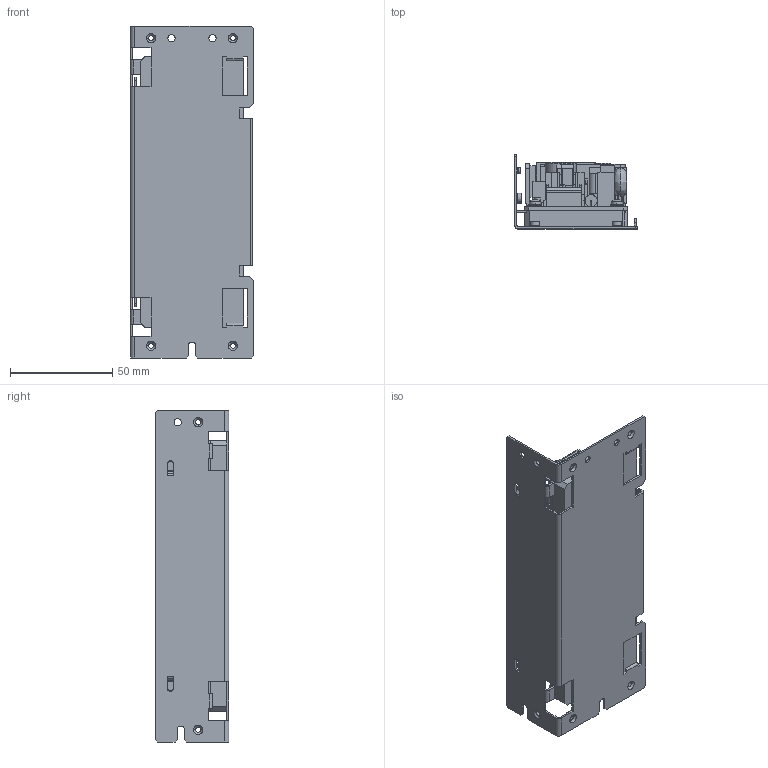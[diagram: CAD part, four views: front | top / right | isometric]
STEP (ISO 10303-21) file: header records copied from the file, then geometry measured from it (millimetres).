
FILE_DESCRIPTION (( 'STEP AP214' ), '1' );
FILE_NAME ('zws50baf_l_outline.STEP', '2015-07-23T02:27:21', ( 'tluser' ), ( '' ), 'SwSTEP 2.0', 'SolidWorks 2013', '' );
FILE_SCHEMA (( 'AUTOMOTIVE_DESIGN' ));
Length unit declared in the file: millimetre
Products named in the file (1): zws50baf_l_outline
Bounding box: 60 x 36 x 162 mm (x, y, z)
Volume: 122682.6 mm3; surface area: 66994.4 mm2
Topology: 1 solids, 2 shells, 1872 faces, 5159 edges, 3293 vertices
Faces by surface type: plane 1194, cylinder 501, cone 119, bspline 58
Entity records: 81231 total; most frequent: CARTESIAN_POINT 12403, ORIENTED_EDGE 10274, DIRECTION 9798, EDGE_CURVE 5137, LINE 3570, VECTOR 3570, VERTEX_POINT 3293, AXIS2_PLACEMENT_3D 3114
